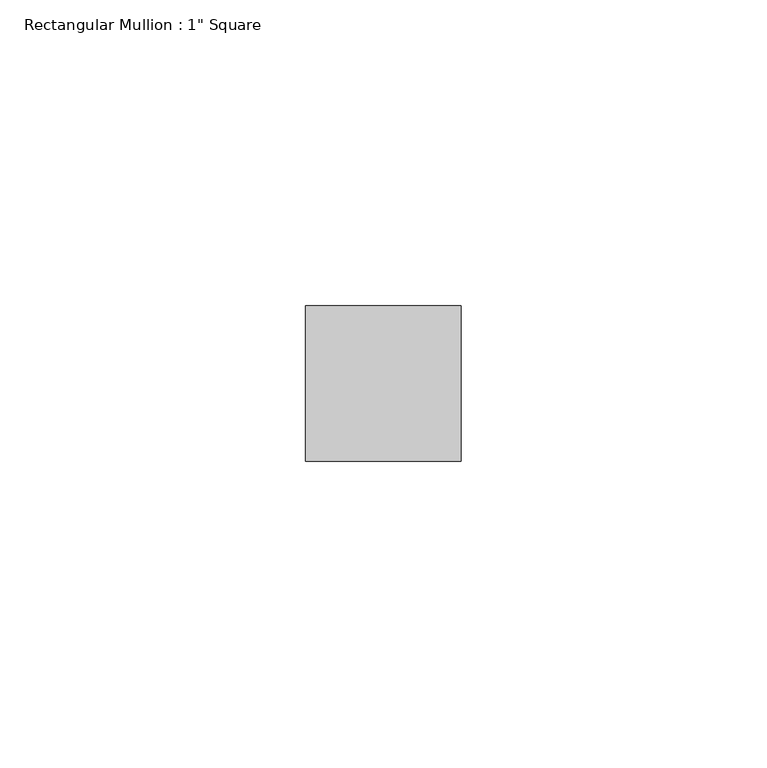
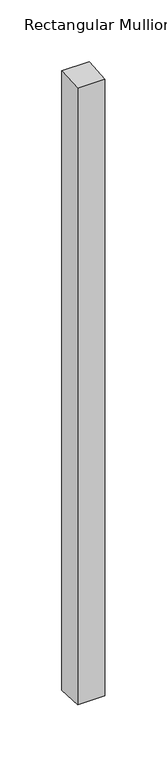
"""IFC4 building model written with IfcOpenShell, lengths in millimetres: member geometry."""

from ifc_helpers import new_model, si_unit, origin, place, context, project, spatial, faceted_brep, source, transform, mapped, element, save


def member_173a6c74(model_context):
    return source(origin(), model_context, "Body", "Brep", [
        faceted_brep([(-25.4, 12.7, 0.7559942), (0.0, 12.7, 0.7587399), (0.0, 12.7, -610.3587399), (-25.4, 12.7, -610.3559942), (-25.4, -12.7, -0.7614856), (-25.4, -12.7, -608.8385144), (0.0, -12.7, -0.7587399), (0.0, -12.7, -608.8412601)], [[[0, 1, 2, 3]], [[4, 0, 3, 5]], [[6, 4, 5, 7]], [[1, 6, 7, 2]], [[1, 0, 4, 6]], [[2, 7, 5, 3]]]),
    ])


if __name__ == "__main__":
    model = new_model("IFC4")
    model_context = context("Model", 3, world=origin())
    ifc_project = project(units=[si_unit("LENGTHUNIT", "METRE", prefix="MILLI")], contexts=[model_context])
    site = spatial("IfcSite", under=ifc_project)
    building = spatial("IfcBuilding", under=site)
    placement = place(None, origin())
    member_shape = member_173a6c74(model_context)
    element("IfcMember", 1, ObjectType="Rectangular Mullion : 1\" Square", at=placement, inside=building, context=model_context, shape_type="MappedRepresentation", body=[
        mapped(member_shape, transform((0.0, 0.0, 0.0), x_axis=(1.0, 0.0, 0.0), y_axis=(0.0, 1.0, 0.0), z_axis=(0.0, 0.0, 1.0))),
    ])
    save(model, "model.ifc")
